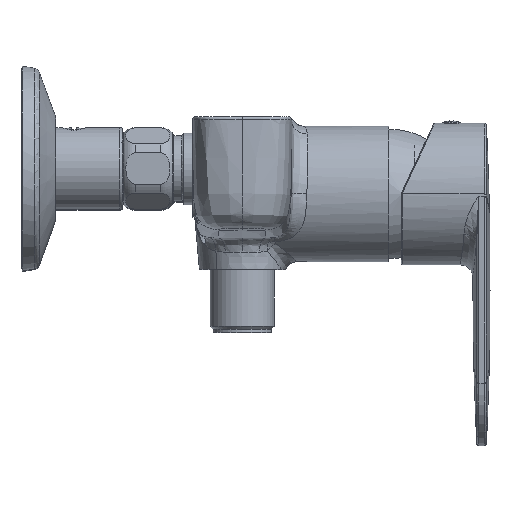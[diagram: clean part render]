
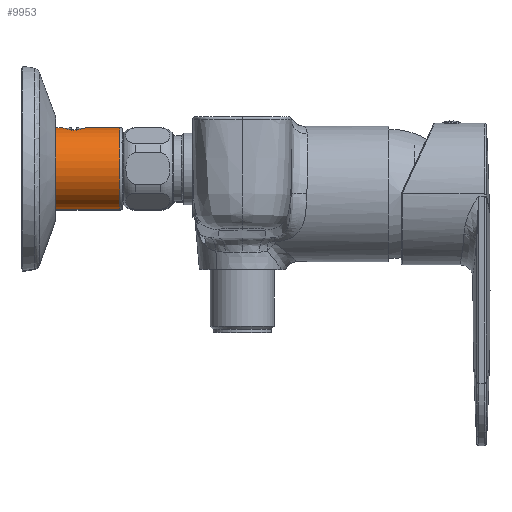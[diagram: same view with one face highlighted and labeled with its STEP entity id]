
A CAD part, top view. The second image highlights one B-rep face of the part: STEP entity #9953.
In plain terms, the highlighted cylindrical face has radius 13 mm (diameter 26 mm), a partial arc.
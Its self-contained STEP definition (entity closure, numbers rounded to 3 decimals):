
#367=CARTESIAN_POINT('',(-69.52,-26.1,76.5));
#395=CARTESIAN_POINT('',(-71.32,-39.1,76.5));
#396=DIRECTION('',(1.,0.,0.));
#397=DIRECTION('',(0.,1.,0.));
#398=AXIS2_PLACEMENT_3D('',#395,#396,#397);
#400=DIRECTION('',(1.,0.,0.));
#401=VECTOR('',#400,1.8);
#402=CARTESIAN_POINT('',(-71.32,-26.1,76.5));
#403=LINE('',#402,#401);
#404=CARTESIAN_POINT('',(-69.52,-26.1,76.5));
#405=CARTESIAN_POINT('',(-69.52,-26.1,76.585));
#406=CARTESIAN_POINT('',(-69.515,-26.102,76.756));
#407=CARTESIAN_POINT('',(-69.49,-26.109,77.014));
#408=CARTESIAN_POINT('',(-69.448,-26.122,77.269));
#409=CARTESIAN_POINT('',(-69.39,-26.139,77.522));
#410=CARTESIAN_POINT('',(-69.316,-26.161,77.771));
#411=CARTESIAN_POINT('',(-69.225,-26.188,78.016));
#412=CARTESIAN_POINT('',(-69.117,-26.218,78.256));
#413=CARTESIAN_POINT('',(-68.994,-26.252,78.489));
#414=CARTESIAN_POINT('',(-68.855,-26.289,78.714));
#415=CARTESIAN_POINT('',(-68.701,-26.329,78.93));
#416=CARTESIAN_POINT('',(-68.532,-26.37,79.137));
#417=CARTESIAN_POINT('',(-68.35,-26.412,79.331));
#418=CARTESIAN_POINT('',(-68.155,-26.454,79.513));
#419=CARTESIAN_POINT('',(-67.948,-26.495,79.682));
#420=CARTESIAN_POINT('',(-67.731,-26.535,79.837));
#421=CARTESIAN_POINT('',(-67.506,-26.573,79.975));
#422=CARTESIAN_POINT('',(-67.274,-26.608,80.098));
#423=CARTESIAN_POINT('',(-67.034,-26.639,80.206));
#424=CARTESIAN_POINT('',(-66.788,-26.667,80.297));
#425=CARTESIAN_POINT('',(-66.539,-26.69,80.371));
#426=CARTESIAN_POINT('',(-66.287,-26.708,80.429));
#427=CARTESIAN_POINT('',(-66.032,-26.721,80.47));
#428=CARTESIAN_POINT('',(-65.775,-26.729,80.495));
#429=CARTESIAN_POINT('',(-65.605,-26.731,80.5));
#430=CARTESIAN_POINT('',(-65.52,-26.731,80.5));
#432=CARTESIAN_POINT('',(-65.52,-26.731,80.5));
#433=CARTESIAN_POINT('',(-65.435,-26.731,80.5));
#434=CARTESIAN_POINT('',(-65.265,-26.729,80.495));
#435=CARTESIAN_POINT('',(-65.008,-26.721,80.47));
#436=CARTESIAN_POINT('',(-64.753,-26.708,80.429));
#437=CARTESIAN_POINT('',(-64.501,-26.69,80.371));
#438=CARTESIAN_POINT('',(-64.252,-26.667,80.297));
#439=CARTESIAN_POINT('',(-64.006,-26.639,80.206));
#440=CARTESIAN_POINT('',(-63.766,-26.608,80.098));
#441=CARTESIAN_POINT('',(-63.534,-26.573,79.975));
#442=CARTESIAN_POINT('',(-63.309,-26.535,79.837));
#443=CARTESIAN_POINT('',(-63.092,-26.495,79.682));
#444=CARTESIAN_POINT('',(-62.885,-26.454,79.513));
#445=CARTESIAN_POINT('',(-62.69,-26.412,79.331));
#446=CARTESIAN_POINT('',(-62.508,-26.37,79.137));
#447=CARTESIAN_POINT('',(-62.339,-26.329,78.93));
#448=CARTESIAN_POINT('',(-62.185,-26.289,78.714));
#449=CARTESIAN_POINT('',(-62.046,-26.252,78.489));
#450=CARTESIAN_POINT('',(-61.923,-26.218,78.256));
#451=CARTESIAN_POINT('',(-61.815,-26.188,78.016));
#452=CARTESIAN_POINT('',(-61.724,-26.161,77.771));
#453=CARTESIAN_POINT('',(-61.65,-26.139,77.522));
#454=CARTESIAN_POINT('',(-61.592,-26.122,77.269));
#455=CARTESIAN_POINT('',(-61.55,-26.109,77.013));
#456=CARTESIAN_POINT('',(-61.525,-26.102,76.756));
#457=CARTESIAN_POINT('',(-61.52,-26.1,76.585));
#458=CARTESIAN_POINT('',(-61.52,-26.1,76.5));
#460=DIRECTION('',(1.,0.,0.));
#461=VECTOR('',#460,10.5);
#462=CARTESIAN_POINT('',(-61.52,-26.1,76.5));
#463=LINE('',#462,#461);
#464=CARTESIAN_POINT('',(-51.02,-39.1,76.5));
#465=DIRECTION('',(1.,0.,0.));
#466=DIRECTION('',(0.,1.,0.));
#467=AXIS2_PLACEMENT_3D('',#464,#465,#466);
#469=DIRECTION('',(-1.,0.,0.));
#470=VECTOR('',#469,20.3);
#471=CARTESIAN_POINT('',(-51.02,-52.1,76.5));
#472=LINE('',#471,#470);
#9292=CARTESIAN_POINT('',(-51.02,-52.1,76.5));
#9293=VERTEX_POINT('',#9292);
#9294=CARTESIAN_POINT('',(-51.02,-26.1,76.5));
#9295=VERTEX_POINT('',#9294);
#9296=CARTESIAN_POINT('',(-61.52,-26.1,
76.5));
#9297=VERTEX_POINT('',#9296);
#9298=VERTEX_POINT('',#367);
#9300=VERTEX_POINT('',#430);
#9561=CARTESIAN_POINT('',(-71.32,-52.1,76.5));
#9562=CARTESIAN_POINT('',(-71.32,-26.1,76.5));
#9563=VERTEX_POINT('',#9561);
#9564=VERTEX_POINT('',#9562);
#9934=CARTESIAN_POINT('',(-62.82,-39.1,76.5));
#9935=DIRECTION('',(1.,0.,0.));
#9936=DIRECTION('',(0.,0.995,-0.104));
#9937=AXIS2_PLACEMENT_3D('',#9934,#9935,#9936);
#9938=CYLINDRICAL_SURFACE('',#9937,13.);
#9940=ORIENTED_EDGE('',*,*,#9939,.F.);
#9942=ORIENTED_EDGE('',*,*,#9941,.T.);
#9943=ORIENTED_EDGE('',*,*,#9926,.T.);
#9944=ORIENTED_EDGE('',*,*,#9910,.T.);
#9946=ORIENTED_EDGE('',*,*,#9945,.T.);
#9948=ORIENTED_EDGE('',*,*,#9947,.T.);
#9950=ORIENTED_EDGE('',*,*,#9949,.T.);
#9951=EDGE_LOOP('',(#9940,#9942,#9943,#9944,#9946,#9948,#9950));
#9952=FACE_OUTER_BOUND('',#9951,.F.);
#9953=ADVANCED_FACE('',(#9952),#9938,.T.);
#399=CIRCLE('',#398,13.);
#431=B_SPLINE_CURVE_WITH_KNOTS('',3,(#404,#405,#406,#407,#408,#409,#410,#411,
#412,#413,#414,#415,#416,#417,#418,#419,#420,#421,#422,#423,#424,#425,#426,#427,
#428,#429,#430),.UNSPECIFIED.,.F.,.F.,(4,1,1,1,1,1,1,1,1,1,1,1,1,1,1,1,1,1,1,1,
1,1,1,1,4),(0.,0.042,0.083,0.125,0.167,
0.208,0.25,0.292,0.333,0.375,
0.417,0.458,0.5,0.542,0.583,
0.625,0.667,0.708,0.75,0.792,
0.833,0.875,0.917,0.958,1.),
.UNSPECIFIED.);
#459=B_SPLINE_CURVE_WITH_KNOTS('',3,(#432,#433,#434,#435,#436,#437,#438,#439,
#440,#441,#442,#443,#444,#445,#446,#447,#448,#449,#450,#451,#452,#453,#454,#455,
#456,#457,#458),.UNSPECIFIED.,.F.,.F.,(4,1,1,1,1,1,1,1,1,1,1,1,1,1,1,1,1,1,1,1,
1,1,1,1,4),(0.,0.042,0.083,0.125,0.167,
0.208,0.25,0.292,0.333,0.375,
0.417,0.458,0.5,0.542,0.583,
0.625,0.667,0.708,0.75,0.792,
0.833,0.875,0.917,0.958,1.),
.UNSPECIFIED.);
#468=CIRCLE('',#467,13.);
#9910=EDGE_CURVE('',#9300,#9297,#459,.T.);
#9926=EDGE_CURVE('',#9298,#9300,#431,.T.);
#9939=EDGE_CURVE('',#9564,#9563,#399,.T.);
#9941=EDGE_CURVE('',#9564,#9298,#403,.T.);
#9945=EDGE_CURVE('',#9297,#9295,#463,.T.);
#9947=EDGE_CURVE('',#9295,#9293,#468,.T.);
#9949=EDGE_CURVE('',#9293,#9563,#472,.T.);
